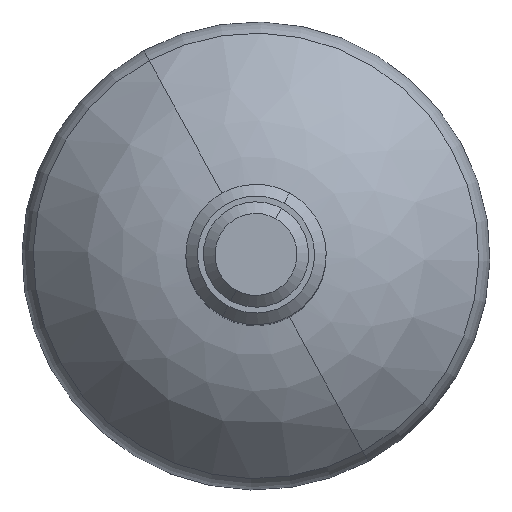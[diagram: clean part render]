
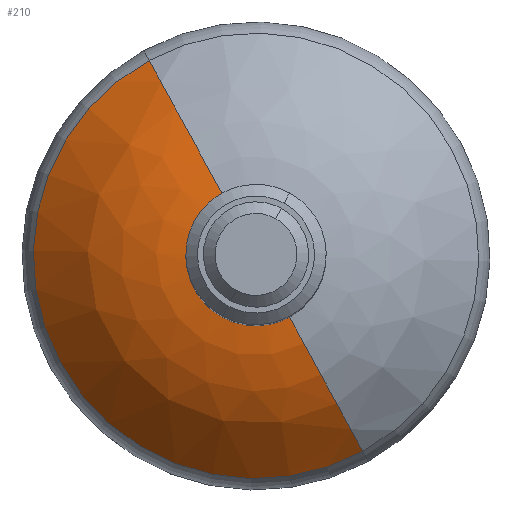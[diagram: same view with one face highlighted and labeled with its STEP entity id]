
A CAD part, top view. The second image highlights one B-rep face of the part: STEP entity #210.
In plain terms, the highlighted face is a revolution surface.
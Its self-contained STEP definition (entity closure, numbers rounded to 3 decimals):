
#129=CARTESIAN_POINT('Vertex',(9.127,-16.706,5.951)) ;
#136=CARTESIAN_POINT('Vertex',(-9.127,16.706,5.951)) ;
#151=CARTESIAN_POINT('Axis2P3D Location',(0.,0.,5.951)) ;
#164=CARTESIAN_POINT('Control Point',(-9.127,16.706,5.951)) ;
#165=CARTESIAN_POINT('Control Point',(-7.971,14.591,9.248)) ;
#166=CARTESIAN_POINT('Control Point',(-6.383,11.683,11.892)) ;
#167=CARTESIAN_POINT('Control Point',(-4.502,8.241,13.498)) ;
#168=CARTESIAN_POINT('Control Point',(-2.559,4.683,13.998)) ;
#169=CARTESIAN_POINT('Axis1P Location',(0.,0.,-5.852)) ;
#173=CARTESIAN_POINT('Axis2P3D Location',(-1.386,2.537,-5.852)) ;
#177=CARTESIAN_POINT('Vertex',(-2.559,4.683,13.998)) ;
#184=CARTESIAN_POINT('Vertex',(2.559,-4.683,13.998)) ;
#187=CARTESIAN_POINT('Axis2P3D Location',(1.386,-2.537,-5.852)) ;
#199=CARTESIAN_POINT('Axis2P3D Location',(0.,0.,13.998)) ;
#152=DIRECTION('Axis2P3D Direction',(0.,0.,1.)) ;
#170=DIRECTION('Axis1P Direction',(-0.,-0.,-1.)) ;
#174=DIRECTION('Axis2P3D Direction',(0.878,0.479,-0.)) ;
#188=DIRECTION('Axis2P3D Direction',(-0.878,-0.479,0.)) ;
#200=DIRECTION('Axis2P3D Direction',(0.,0.,1.)) ;
#153=AXIS2_PLACEMENT_3D('Circle Axis2P3D',#151,#152,$) ;
#175=AXIS2_PLACEMENT_3D('Circle Axis2P3D',#173,#174,$) ;
#189=AXIS2_PLACEMENT_3D('Circle Axis2P3D',#187,#188,$) ;
#201=AXIS2_PLACEMENT_3D('Circle Axis2P3D',#199,#200,$) ;
#205=ORIENTED_EDGE('',*,*,#179,.F.) ;
#206=ORIENTED_EDGE('',*,*,#155,.T.) ;
#207=ORIENTED_EDGE('',*,*,#191,.T.) ;
#208=ORIENTED_EDGE('',*,*,#203,.F.) ;
#210=ADVANCED_FACE('PartBody',(#209),#172,.F.) ;
#171=AXIS1_PLACEMENT('Revolution Surface Axis1P',#169,#170) ;
#163=B_SPLINE_CURVE_WITH_KNOTS('',4,(#164,#165,#166,#167,#168),.UNSPECIFIED.,.F.,.U.,(5,5),(12.625,28.964),.UNSPECIFIED.) ;
#154=CIRCLE('generated circle',#153,19.037) ;
#176=CIRCLE('generated circle',#175,20.) ;
#190=CIRCLE('generated circle',#189,20.) ;
#202=CIRCLE('generated circle',#201,5.337) ;
#155=EDGE_CURVE('',#137,#130,#154,.T.) ;
#179=EDGE_CURVE('',#137,#178,#176,.T.) ;
#191=EDGE_CURVE('',#130,#185,#190,.T.) ;
#203=EDGE_CURVE('',#178,#185,#202,.T.) ;
#204=EDGE_LOOP('',(#205,#206,#207,#208)) ;
#209=FACE_OUTER_BOUND('',#204,.T.) ;
#172=SURFACE_OF_REVOLUTION('homeo Torus',#163,#171) ;
#130=VERTEX_POINT('',#129) ;
#137=VERTEX_POINT('',#136) ;
#178=VERTEX_POINT('',#177) ;
#185=VERTEX_POINT('',#184) ;
